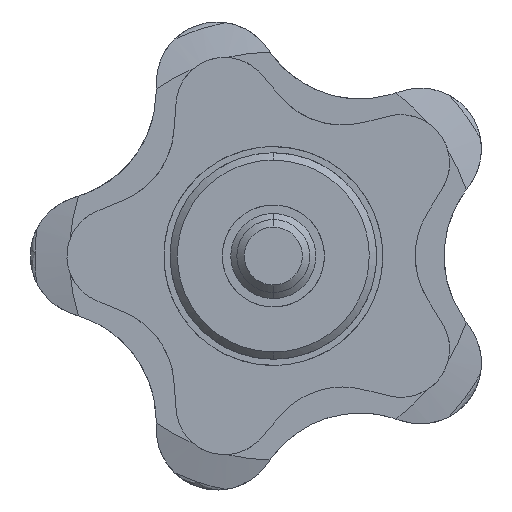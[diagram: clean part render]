
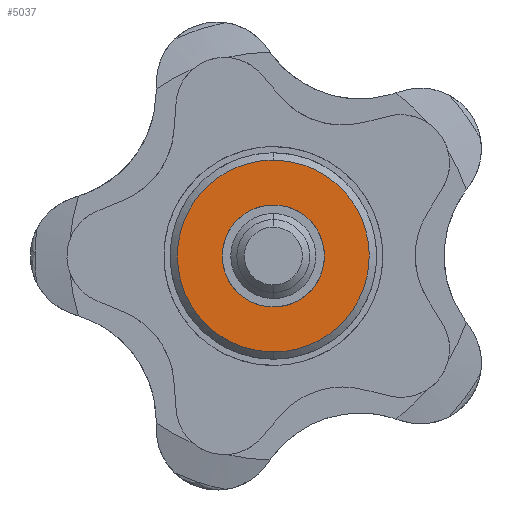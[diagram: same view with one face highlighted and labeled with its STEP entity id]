
A CAD part, left-side view. The second image highlights one B-rep face of the part: STEP entity #5037.
In plain terms, the highlighted planar face has unit normal (-1, 0, 0).
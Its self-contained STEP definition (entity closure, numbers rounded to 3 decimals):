
#26 = CARTESIAN_POINT ( 'NONE',  ( 0.3, 7.694, -2.068 ) ) ;
#112 = CARTESIAN_POINT ( 'NONE',  ( 0.3, -7.694, -2.068 ) ) ;
#147 = ORIENTED_EDGE ( 'NONE', *, *, #4200, .F. ) ;
#154 = EDGE_LOOP ( 'NONE', ( #3703, #5254 ) ) ;
#213 = CARTESIAN_POINT ( 'NONE',  ( 0.3, 0., -4.2 ) ) ;
#413 = EDGE_CURVE ( 'NONE', #3953, #5181, #4336, .T. ) ;
#516 = CARTESIAN_POINT ( 'NONE',  ( 0.3, -3.359, 2.581 ) ) ;
#518 = CARTESIAN_POINT ( 'NONE',  ( 0.3, -6.903, 3.979 ) ) ;
#617 = CARTESIAN_POINT ( 'NONE',  ( 0.3, 3.359, 2.581 ) ) ;
#822 = CARTESIAN_POINT ( 'NONE',  ( 0.3, 7.9, 1.034 ) ) ;
#875 = CARTESIAN_POINT ( 'NONE',  ( 0.3, -6.903, -3.979 ) ) ;
#898 = CARTESIAN_POINT ( 'NONE',  ( 0.3, 1.034, 7.9 ) ) ;
#941 = CARTESIAN_POINT ( 'NONE',  ( 0.3, 2.115, 3.67 ) ) ;
#949 = CARTESIAN_POINT ( 'NONE',  ( 0.3, 0., -7.9 ) ) ;
#997 = CARTESIAN_POINT ( 'NONE',  ( 0.3, -2.115, -3.67 ) ) ;
#1020 = CARTESIAN_POINT ( 'NONE',  ( 0.3, 2.581, 3.359 ) ) ;
#1034 = EDGE_LOOP ( 'NONE', ( #4206, #147 ) ) ;
#1217 = CARTESIAN_POINT ( 'NONE',  ( 0.3, 2.068, -7.694 ) ) ;
#1276 = CARTESIAN_POINT ( 'NONE',  ( 0.3, 0., 7.9 ) ) ;
#1307 = CARTESIAN_POINT ( 'NONE',  ( 0.3, -7.694, 2.068 ) ) ;
#1328 = CARTESIAN_POINT ( 'NONE',  ( 0.3, 4.855, -6.317 ) ) ;
#1356 = CARTESIAN_POINT ( 'NONE',  ( 0.3, 4.2, -0.55 ) ) ;
#1362 = CARTESIAN_POINT ( 'NONE',  ( 0.3, -2.581, 3.359 ) ) ;
#1365 = CARTESIAN_POINT ( 'NONE',  ( 0.3, -2.068, -7.694 ) ) ;
#1390 = CARTESIAN_POINT ( 'NONE',  ( 0.3, -0.55, 4.2 ) ) ;
#1420 = CARTESIAN_POINT ( 'NONE',  ( 0.3, -4.091, 1.099 ) ) ;
#1446 = CARTESIAN_POINT ( 'NONE',  ( 0.3, 0., 4.2 ) ) ;
#1585 = EDGE_CURVE ( 'NONE', #3889, #2470, #4647, .T. ) ;
#1708 = B_SPLINE_CURVE_WITH_KNOTS ( 'NONE', 3,
 ( #4239, #3062, #2268, #941, #1020, #617, #3941, #1763, #5075, #1356, #3033, #4675, #4268, #4318, #4700, #1837, #5128, #213 ),
 .UNSPECIFIED., .F., .F.,
 ( 4, 2, 2, 2, 2, 2, 2, 2, 4 ),
 ( 0., 0.125, 0.25, 0.375, 0.5, 0.625, 0.75, 0.875, 1. ),
 .UNSPECIFIED. ) ;
#1742 = CARTESIAN_POINT ( 'NONE',  ( 0.3, -0.55, -4.2 ) ) ;
#1744 = CARTESIAN_POINT ( 'NONE',  ( 0.3, -1.034, 7.9 ) ) ;
#1763 = CARTESIAN_POINT ( 'NONE',  ( 0.3, 4.091, 1.099 ) ) ;
#1837 = CARTESIAN_POINT ( 'NONE',  ( 0.3, 1.099, -4.091 ) ) ;
#1842 = CARTESIAN_POINT ( 'NONE',  ( 0.3, 0., -4.2 ) ) ;
#2133 = CARTESIAN_POINT ( 'NONE',  ( 0.3, 0., 7.9 ) ) ;
#2166 = CARTESIAN_POINT ( 'NONE',  ( 0.3, -2.115, 3.67 ) ) ;
#2168 = CARTESIAN_POINT ( 'NONE',  ( 0.3, -7.9, -1.034 ) ) ;
#2268 = CARTESIAN_POINT ( 'NONE',  ( 0.3, 1.099, 4.091 ) ) ;
#2467 = CARTESIAN_POINT ( 'NONE',  ( 0.3, 7.694, 2.068 ) ) ;
#2470 = VERTEX_POINT ( 'NONE', #2889 ) ;
#2549 = CARTESIAN_POINT ( 'NONE',  ( 0.3, 4.855, 6.317 ) ) ;
#2651 = CARTESIAN_POINT ( 'NONE',  ( 0.3, -3.359, -2.581 ) ) ;
#2694 = DIRECTION ( 'NONE',  ( 0., 1., 0. ) ) ;
#2889 = CARTESIAN_POINT ( 'NONE',  ( 0.3, 0., 4.2 ) ) ;
#2942 = CARTESIAN_POINT ( 'NONE',  ( 0.3, -3.979, 6.903 ) ) ;
#2987 = CARTESIAN_POINT ( 'NONE',  ( 0.3, 6.903, 3.979 ) ) ;
#3016 = CARTESIAN_POINT ( 'NONE',  ( 0.3, -1.034, -7.9 ) ) ;
#3033 = CARTESIAN_POINT ( 'NONE',  ( 0.3, 4.091, -1.099 ) ) ;
#3062 = CARTESIAN_POINT ( 'NONE',  ( 0.3, 0.55, 4.2 ) ) ;
#3387 = CARTESIAN_POINT ( 'NONE',  ( 0.3, 3.979, -6.903 ) ) ;
#3391 = CARTESIAN_POINT ( 'NONE',  ( 0.3, -1.099, 4.091 ) ) ;
#3393 = CARTESIAN_POINT ( 'NONE',  ( 0.3, -2.068, 7.694 ) ) ;
#3442 = CARTESIAN_POINT ( 'NONE',  ( 0.3, -2.581, -3.359 ) ) ;
#3444 = CARTESIAN_POINT ( 'NONE',  ( 0.3, -4.855, -6.317 ) ) ;
#3476 = CARTESIAN_POINT ( 'NONE',  ( 0.3, -4.2, -0.55 ) ) ;
#3504 = CARTESIAN_POINT ( 'NONE',  ( 0.3, -4.2, 0.55 ) ) ;
#3604 = PLANE ( 'NONE',  #4431 ) ;
#3703 = ORIENTED_EDGE ( 'NONE', *, *, #4797, .F. ) ;
#3784 = CARTESIAN_POINT ( 'NONE',  ( 0.3, 7.9, -1.034 ) ) ;
#3788 = CARTESIAN_POINT ( 'NONE',  ( 0.3, -4.855, 6.317 ) ) ;
#3838 = CARTESIAN_POINT ( 'NONE',  ( 0.3, -3.67, 2.115 ) ) ;
#3889 = VERTEX_POINT ( 'NONE', #5060 ) ;
#3941 = CARTESIAN_POINT ( 'NONE',  ( 0.3, 3.67, 2.115 ) ) ;
#3953 = VERTEX_POINT ( 'NONE', #4328 ) ;
#4013 = FACE_BOUND ( 'NONE', #1034, .T. ) ;
#4142 = CARTESIAN_POINT ( 'NONE',  ( 0.3, 2.068, 7.694 ) ) ;
#4193 = CARTESIAN_POINT ( 'NONE',  ( 0.3, 6.317, 4.855 ) ) ;
#4200 = EDGE_CURVE ( 'NONE', #2470, #3889, #1708, .T. ) ;
#4206 = ORIENTED_EDGE ( 'NONE', *, *, #1585, .F. ) ;
#4239 = CARTESIAN_POINT ( 'NONE',  ( 0.3, 0., 4.2 ) ) ;
#4268 = CARTESIAN_POINT ( 'NONE',  ( 0.3, 3.359, -2.581 ) ) ;
#4318 = CARTESIAN_POINT ( 'NONE',  ( 0.3, 2.581, -3.359 ) ) ;
#4328 = CARTESIAN_POINT ( 'NONE',  ( 0.3, 0., 7.9 ) ) ;
#4336 = B_SPLINE_CURVE_WITH_KNOTS ( 'NONE', 3,
 ( #1276, #1744, #3393, #2942, #3788, #5032, #518, #1307, #5081, #2168, #112, #875, #4604, #3444, #4683, #1365, #3016, #949 ),
 .UNSPECIFIED., .F., .F.,
 ( 4, 2, 2, 2, 2, 2, 2, 2, 4 ),
 ( 0., 0.125, 0.25, 0.375, 0.5, 0.625, 0.75, 0.875, 1. ),
 .UNSPECIFIED. ) ;
#4431 = AXIS2_PLACEMENT_3D ( 'NONE', #4768, #5287, #2694 ) ;
#4447 = FACE_OUTER_BOUND ( 'NONE', #154, .T. ) ;
#4503 = CARTESIAN_POINT ( 'NONE',  ( 0.3, 0., -7.9 ) ) ;
#4545 = CARTESIAN_POINT ( 'NONE',  ( 0.3, 6.317, -4.855 ) ) ;
#4573 = CARTESIAN_POINT ( 'NONE',  ( 0.3, 1.034, -7.9 ) ) ;
#4604 = CARTESIAN_POINT ( 'NONE',  ( 0.3, -6.317, -4.855 ) ) ;
#4647 = B_SPLINE_CURVE_WITH_KNOTS ( 'NONE', 3,
 ( #1842, #1742, #4707, #997, #3442, #2651, #5104, #4654, #3476, #3504, #1420, #3838, #516, #1362, #2166, #3391, #1390, #1446 ),
 .UNSPECIFIED., .F., .F.,
 ( 4, 2, 2, 2, 2, 2, 2, 2, 4 ),
 ( 0., 0.125, 0.25, 0.375, 0.5, 0.625, 0.75, 0.875, 1. ),
 .UNSPECIFIED. ) ;
#4654 = CARTESIAN_POINT ( 'NONE',  ( 0.3, -4.091, -1.099 ) ) ;
#4675 = CARTESIAN_POINT ( 'NONE',  ( 0.3, 3.67, -2.115 ) ) ;
#4683 = CARTESIAN_POINT ( 'NONE',  ( 0.3, -3.979, -6.903 ) ) ;
#4700 = CARTESIAN_POINT ( 'NONE',  ( 0.3, 2.115, -3.67 ) ) ;
#4707 = CARTESIAN_POINT ( 'NONE',  ( 0.3, -1.099, -4.091 ) ) ;
#4768 = CARTESIAN_POINT ( 'NONE',  ( 0.3, -7.9, 0. ) ) ;
#4797 = EDGE_CURVE ( 'NONE', #5181, #3953, #4949, .T. ) ;
#4948 = CARTESIAN_POINT ( 'NONE',  ( 0.3, 0., -7.9 ) ) ;
#4949 = B_SPLINE_CURVE_WITH_KNOTS ( 'NONE', 3,
 ( #4948, #4573, #1217, #3387, #1328, #4545, #4995, #26, #3784, #822, #2467, #2987, #4193, #2549, #5024, #4142, #898, #2133 ),
 .UNSPECIFIED., .F., .F.,
 ( 4, 2, 2, 2, 2, 2, 2, 2, 4 ),
 ( 0., 0.125, 0.25, 0.375, 0.5, 0.625, 0.75, 0.875, 1. ),
 .UNSPECIFIED. ) ;
#4995 = CARTESIAN_POINT ( 'NONE',  ( 0.3, 6.903, -3.979 ) ) ;
#5024 = CARTESIAN_POINT ( 'NONE',  ( 0.3, 3.979, 6.903 ) ) ;
#5032 = CARTESIAN_POINT ( 'NONE',  ( 0.3, -6.317, 4.855 ) ) ;
#5037 = ADVANCED_FACE ( 'NONE', ( #4447, #4013 ), #3604, .F. ) ;
#5060 = CARTESIAN_POINT ( 'NONE',  ( 0.3, 0., -4.2 ) ) ;
#5075 = CARTESIAN_POINT ( 'NONE',  ( 0.3, 4.2, 0.55 ) ) ;
#5081 = CARTESIAN_POINT ( 'NONE',  ( 0.3, -7.9, 1.034 ) ) ;
#5104 = CARTESIAN_POINT ( 'NONE',  ( 0.3, -3.67, -2.115 ) ) ;
#5128 = CARTESIAN_POINT ( 'NONE',  ( 0.3, 0.55, -4.2 ) ) ;
#5181 = VERTEX_POINT ( 'NONE', #4503 ) ;
#5254 = ORIENTED_EDGE ( 'NONE', *, *, #413, .F. ) ;
#5287 = DIRECTION ( 'NONE',  ( 1., 0., 0. ) ) ;
